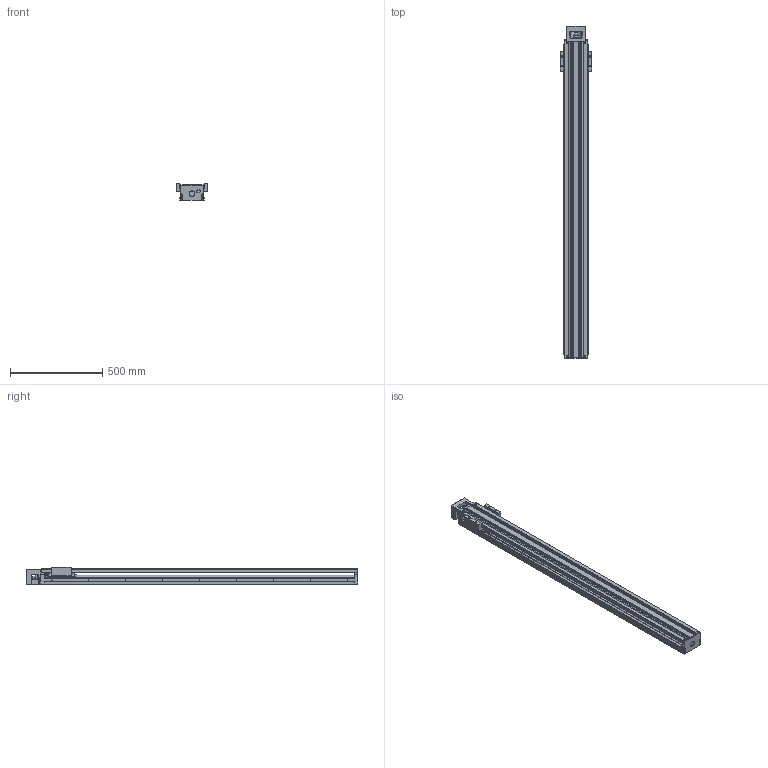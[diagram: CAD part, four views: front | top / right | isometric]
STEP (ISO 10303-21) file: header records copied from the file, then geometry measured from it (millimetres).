
FILE_DESCRIPTION(('no description'),'unknown implementation level');
FILE_NAME('KK13025P1680A1F0C00_FILE_5.stp',' ',('HIWIN GmbH'),('CADClick - KiM GmbH - www.kimweb.de'),'unknown preprocess','ACIS','unknown authorization');
FILE_SCHEMA(('automotive_design'));
Length unit declared in the file: millimetre
Products named in the file (2): KK130_FILE; KK13025P1680A1F0C00_FILE
Bounding box: 170 x 1798 x 94 mm (x, y, z)
Volume: 7823397.2 mm3; surface area: 1582340.9 mm2
Topology: 2 solids, 11 shells, 1009 faces, 2556 edges, 1657 vertices
Faces by surface type: plane 599, cylinder 356, torus 46, cone 6, sphere 2
Entity records: 59802 total; most frequent: DIRECTION 5464, CARTESIAN_POINT 5330, STYLED_ITEM 5222, PRESENTATION_STYLE_ASSIGNMENT 5222, COLOUR_RGB 5222, ORIENTED_EDGE 5108, EDGE_CURVE 2554, CURVE_STYLE 2554
